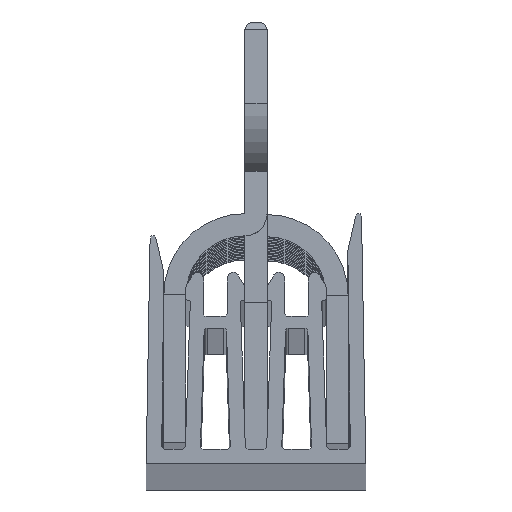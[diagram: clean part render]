
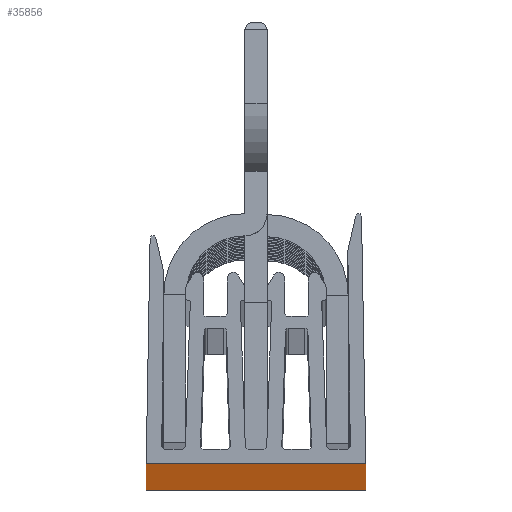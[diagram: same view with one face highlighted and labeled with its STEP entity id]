
A CAD part, top view. The second image highlights one B-rep face of the part: STEP entity #35856.
In plain terms, the highlighted planar face has unit normal (0, -1, 0).
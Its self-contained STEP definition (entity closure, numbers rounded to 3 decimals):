
#4941 = FACE_OUTER_BOUND ( 'NONE', #35869, .T. ) ;
#4942 = DIRECTION ( 'NONE',  ( 1., 0., 0. ) ) ;
#4943 = VECTOR ( 'NONE', #4942, 1000. ) ;
#4944 = CARTESIAN_POINT ( 'NONE',  ( 0., 0., -508. ) ) ;
#4945 = LINE ( 'NONE', #4944, #4943 ) ;
#4976 = CARTESIAN_POINT ( 'NONE',  ( -7.45, 0., 508. ) ) ;
#4977 = DIRECTION ( 'NONE',  ( 0., 0., 1. ) ) ;
#4978 = DIRECTION ( 'NONE',  ( 0., 1., 0. ) ) ;
#4979 = CARTESIAN_POINT ( 'NONE',  ( 0., 0., 508. ) ) ;
#4980 = AXIS2_PLACEMENT_3D ( 'NONE', #4979, #4978, #4977 ) ;
#4981 = PLANE ( 'NONE',  #4980 ) ;
#5007 = DIRECTION ( 'NONE',  ( 0., 0., -1. ) ) ;
#5008 = VECTOR ( 'NONE', #5007, 1000. ) ;
#5009 = CARTESIAN_POINT ( 'NONE',  ( -7.45, 0., 508. ) ) ;
#5010 = LINE ( 'NONE', #5009, #5008 ) ;
#5011 = CARTESIAN_POINT ( 'NONE',  ( -7.45, 0., -508. ) ) ;
#20954 = DIRECTION ( 'NONE',  ( 0., 0., -1. ) ) ;
#20955 = VECTOR ( 'NONE', #20954, 1000. ) ;
#20956 = CARTESIAN_POINT ( 'NONE',  ( 7.45, 0., 508. ) ) ;
#20957 = LINE ( 'NONE', #20956, #20955 ) ;
#20969 = CARTESIAN_POINT ( 'NONE',  ( 7.45, 0., 508. ) ) ;
#20970 = CARTESIAN_POINT ( 'NONE',  ( 7.45, 0., -508. ) ) ;
#20999 = DIRECTION ( 'NONE',  ( 1., 0., 0. ) ) ;
#21000 = VECTOR ( 'NONE', #20999, 1000. ) ;
#21001 = CARTESIAN_POINT ( 'NONE',  ( 0., 0., 508. ) ) ;
#21002 = LINE ( 'NONE', #21001, #21000 ) ;
#31008 = VERTEX_POINT ( 'NONE', #20970 ) ;
#31010 = ORIENTED_EDGE ( 'NONE', *, *, #31027, .F. ) ;
#31012 = VERTEX_POINT ( 'NONE', #20969 ) ;
#31014 = ORIENTED_EDGE ( 'NONE', *, *, #35879, .T. ) ;
#31027 = EDGE_CURVE ( 'NONE', #31012, #31008, #20957, .T. ) ;
#31038 = ORIENTED_EDGE ( 'NONE', *, *, #31039, .F. ) ;
#31039 = EDGE_CURVE ( 'NONE', #35860, #31012, #21002, .T. ) ;
#35854 = EDGE_CURVE ( 'NONE', #35876, #31008, #4945, .T. ) ;
#35856 = ADVANCED_FACE ( 'NONE', ( #4941 ), #4981, .F. ) ;
#35860 = VERTEX_POINT ( 'NONE', #4976 ) ;
#35869 = EDGE_LOOP ( 'NONE', ( #35989, #31010, #31038, #31014 ) ) ;
#35876 = VERTEX_POINT ( 'NONE', #5011 ) ;
#35879 = EDGE_CURVE ( 'NONE', #35860, #35876, #5010, .T. ) ;
#35989 = ORIENTED_EDGE ( 'NONE', *, *, #35854, .T. ) ;
